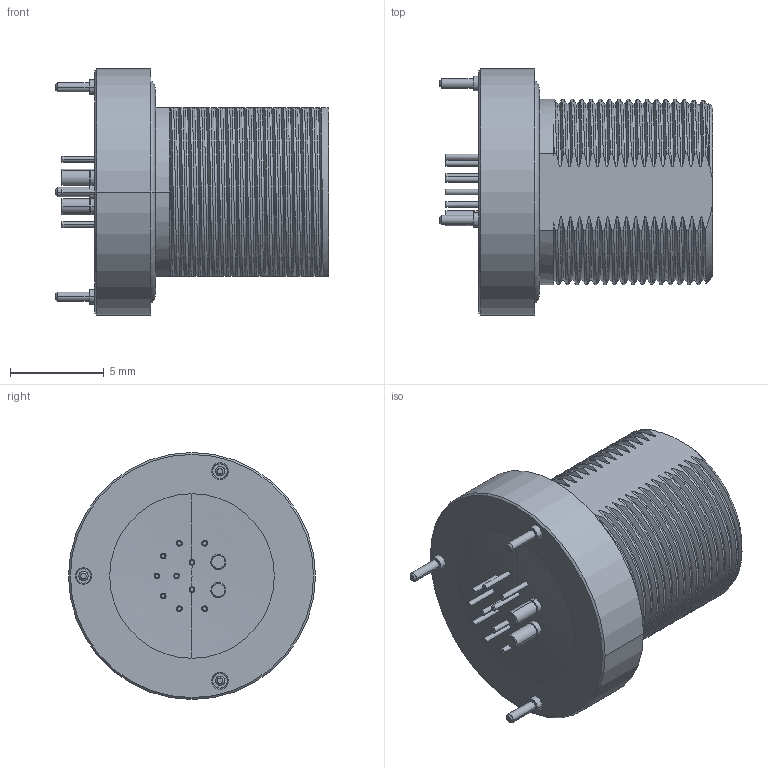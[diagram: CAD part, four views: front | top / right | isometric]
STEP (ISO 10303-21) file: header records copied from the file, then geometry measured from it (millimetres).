
FILE_DESCRIPTION((''),'2;1');
FILE_NAME('9908','2021-03-30T14:08:24',('RHofbauer'),(''),'CREO PARAMETRIC BY PTC INC, 2018300','CREO PARAMETRIC BY PTC INC, 2018300','');
FILE_SCHEMA(('AP242_MANAGED_MODEL_BASED_3D_ENGINEERING_MIM_LF { 1 0 10303 442 1 1 4 }'));
Products named in the file (1): 9908
Bounding box: 14.6 x 13.2 x 13.2 mm (x, y, z)
Volume: 824.7 mm3; surface area: 1697.2 mm2
Topology: 2 solids, 3 shells, 895 faces, 2439 edges, 1547 vertices
Faces by surface type: cylinder 284, plane 227, cone 177, bspline 125, torus 81, sphere 1
Entity records: 103204 total; most frequent: CARTESIAN_POINT 76068, ORIENTED_EDGE 4818, DIRECTION 3666, EDGE_CURVE 2409, VERTEX_POINT 1547, AXIS2_PLACEMENT_3D 1451, B_SPLINE_CURVE_WITH_KNOTS 964, EDGE_LOOP 948
